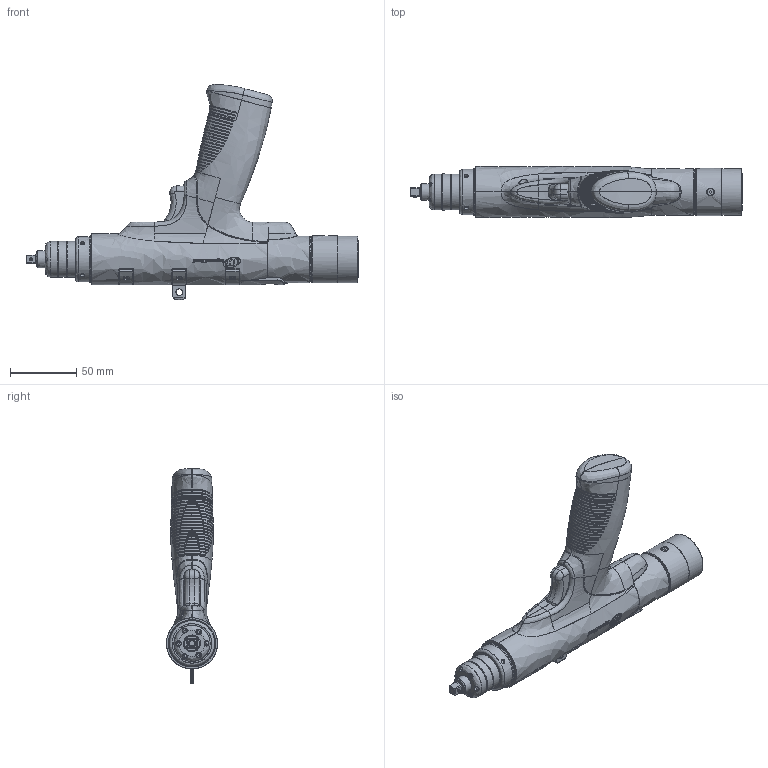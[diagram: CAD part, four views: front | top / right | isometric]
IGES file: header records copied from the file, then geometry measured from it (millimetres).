
Global section: file name: G:\Eng_Shared\PF\SURF MODELS\QE-QM\QE\QE2\Pistol\16610627_A.igs; native system: NX V4.0; preprocessor: UGS NX IGES V4.0; date: 20090218.104352; units: millimetre
Bounding box: 249.79 x 38.44 x 161.88 mm (x, y, z)
Surface area: 56743.7 mm2 (no closed solid volume)
Topology: 0 solids, 0 shells, 1728 faces, 11317 edges, 11076 vertices
Faces by surface type: bspline 1681, offset 47
